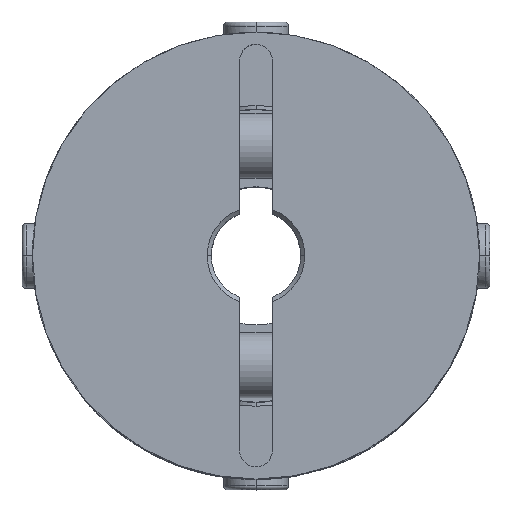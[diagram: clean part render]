
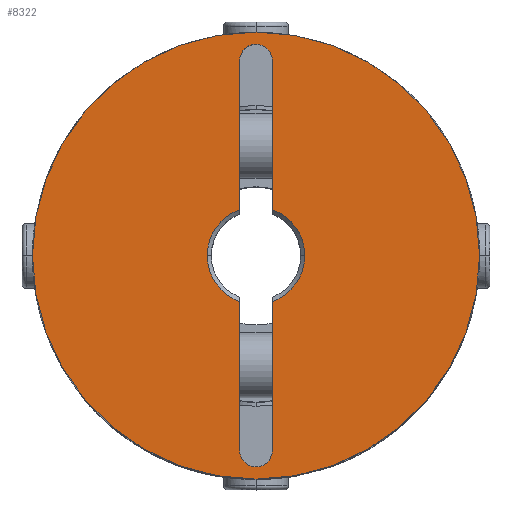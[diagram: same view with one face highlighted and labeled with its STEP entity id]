
A CAD part, top view. The second image highlights one B-rep face of the part: STEP entity #8322.
In plain terms, the highlighted planar face has unit normal (0, 0, 1).
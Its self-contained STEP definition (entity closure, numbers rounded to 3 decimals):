
#632=CARTESIAN_POINT('',(6.,0.,29.0));
#633=VERTEX_POINT('',#632);
#649=CARTESIAN_POINT('',(2.,-5.657,29.0));
#650=VERTEX_POINT('',#649);
#664=CARTESIAN_POINT('',(0.,0.0,29.0));
#665=DIRECTION('',(0.0,0.0,1.0));
#666=DIRECTION('',(-1.0,0.0,0.0));
#667=AXIS2_PLACEMENT_3D('',#664,#665,#666);
#668=CIRCLE('',#667,6.0);
#669=EDGE_CURVE('',#650,#633,#668,.T.);
#831=CARTESIAN_POINT('',(-6.,0.,29.0));
#832=VERTEX_POINT('',#831);
#839=CARTESIAN_POINT('',(-2.,-5.657,29.0));
#840=VERTEX_POINT('',#839);
#841=CARTESIAN_POINT('',(0.,0.0,29.0));
#842=DIRECTION('',(0.0,0.0,1.0));
#843=DIRECTION('',(-1.0,0.0,0.0));
#844=AXIS2_PLACEMENT_3D('',#841,#842,#843);
#845=CIRCLE('',#844,6.0);
#846=EDGE_CURVE('',#832,#840,#845,.T.);
#872=CARTESIAN_POINT('',(-1.414,25.414,29.0));
#873=VERTEX_POINT('',#872);
#889=CARTESIAN_POINT('',(2.,24.,29.0));
#890=VERTEX_POINT('',#889);
#897=CARTESIAN_POINT('',(0.,24.,29.0));
#898=DIRECTION('',(0.0,0.0,1.));
#899=DIRECTION('',(0.707,0.707,0.0));
#900=AXIS2_PLACEMENT_3D('',#897,#898,#899);
#901=CIRCLE('',#900,2.);
#902=EDGE_CURVE('',#890,#873,#901,.T.);
#914=CARTESIAN_POINT('',(1.414,-25.414,29.0));
#915=VERTEX_POINT('',#914);
#931=CARTESIAN_POINT('',(-2.,-24.,29.0));
#932=VERTEX_POINT('',#931);
#939=CARTESIAN_POINT('',(0.,-24.,29.0));
#940=DIRECTION('',(0.0,0.0,1.0));
#941=DIRECTION('',(-0.707,-0.707,0.0));
#942=AXIS2_PLACEMENT_3D('',#939,#940,#941);
#943=CIRCLE('',#942,2.0);
#944=EDGE_CURVE('',#932,#915,#943,.T.);
#1499=CARTESIAN_POINT('',(-27.5,0.,29.0));
#1500=VERTEX_POINT('',#1499);
#1507=CARTESIAN_POINT('',(27.5,0.0,29.0));
#1508=VERTEX_POINT('',#1507);
#1509=CARTESIAN_POINT('',(0.,0.0,29.0));
#1510=DIRECTION('',(0.0,0.0,-1.0));
#1511=DIRECTION('',(1.0,0.0,0.0));
#1512=AXIS2_PLACEMENT_3D('',#1509,#1510,#1511);
#1513=CIRCLE('',#1512,27.5);
#1514=EDGE_CURVE('',#1500,#1508,#1513,.T.);
#7523=CARTESIAN_POINT('',(0.,0.0,29.0));
#7524=DIRECTION('',(0.0,0.0,-1.0));
#7525=DIRECTION('',(1.0,0.0,0.0));
#7526=AXIS2_PLACEMENT_3D('',#7523,#7524,#7525);
#7527=CIRCLE('',#7526,27.5);
#7528=EDGE_CURVE('',#1508,#1500,#7527,.T.);
#8081=CARTESIAN_POINT('',(2.,-24.,29.0));
#8082=VERTEX_POINT('',#8081);
#8083=CARTESIAN_POINT('',(0.,-24.,29.0));
#8084=DIRECTION('',(0.0,0.0,1.0));
#8085=DIRECTION('',(-0.707,-0.707,0.0));
#8086=AXIS2_PLACEMENT_3D('',#8083,#8084,#8085);
#8087=CIRCLE('',#8086,2.0);
#8088=EDGE_CURVE('',#915,#8082,#8087,.T.);
#8106=CARTESIAN_POINT('',(2.,-5.657,29.0));
#8107=DIRECTION('',(0.0,-1.0,0.0));
#8108=VECTOR('',#8107,18.343);
#8109=LINE('',#8106,#8108);
#8110=EDGE_CURVE('',#650,#8082,#8109,.T.);
#8129=CARTESIAN_POINT('',(-2.,24.,29.0));
#8130=VERTEX_POINT('',#8129);
#8131=CARTESIAN_POINT('',(0.,24.,29.0));
#8132=DIRECTION('',(0.0,0.0,1.));
#8133=DIRECTION('',(0.707,0.707,0.0));
#8134=AXIS2_PLACEMENT_3D('',#8131,#8132,#8133);
#8135=CIRCLE('',#8134,2.);
#8136=EDGE_CURVE('',#873,#8130,#8135,.T.);
#8154=CARTESIAN_POINT('',(-2.,5.657,29.0));
#8155=VERTEX_POINT('',#8154);
#8156=CARTESIAN_POINT('',(-2.,5.657,29.0));
#8157=DIRECTION('',(0.0,1.0,0.0));
#8158=VECTOR('',#8157,18.343);
#8159=LINE('',#8156,#8158);
#8160=EDGE_CURVE('',#8155,#8130,#8159,.T.);
#8236=CARTESIAN_POINT('',(2.,5.657,29.0));
#8237=VERTEX_POINT('',#8236);
#8251=CARTESIAN_POINT('',(2.,24.,29.0));
#8252=DIRECTION('',(0.0,-1.0,0.0));
#8253=VECTOR('',#8252,18.343);
#8254=LINE('',#8251,#8253);
#8255=EDGE_CURVE('',#890,#8237,#8254,.T.);
#8274=CARTESIAN_POINT('',(-2.,-24.,29.0));
#8275=DIRECTION('',(0.0,1.0,0.0));
#8276=VECTOR('',#8275,18.343);
#8277=LINE('',#8274,#8276);
#8278=EDGE_CURVE('',#932,#840,#8277,.T.);
#8287=CARTESIAN_POINT('',(2.5,0.,29.0));
#8288=DIRECTION('',(0.0,0.0,1.0));
#8289=DIRECTION('',(1.0,0.0,0.0));
#8290=AXIS2_PLACEMENT_3D('',#8287,#8288,#8289);
#8291=PLANE('',#8290);
#8292=ORIENTED_EDGE('',*,*,#7528,.F.);
#8293=ORIENTED_EDGE('',*,*,#1514,.F.);
#8294=EDGE_LOOP('',(#8292,#8293));
#8295=FACE_OUTER_BOUND('',#8294,.T.);
#8296=ORIENTED_EDGE('',*,*,#8110,.T.);
#8297=ORIENTED_EDGE('',*,*,#8088,.F.);
#8298=ORIENTED_EDGE('',*,*,#944,.F.);
#8299=ORIENTED_EDGE('',*,*,#8278,.T.);
#8300=ORIENTED_EDGE('',*,*,#846,.F.);
#8301=CARTESIAN_POINT('',(0.,0.0,29.0));
#8302=DIRECTION('',(0.0,0.0,1.0));
#8303=DIRECTION('',(-1.0,0.0,0.0));
#8304=AXIS2_PLACEMENT_3D('',#8301,#8302,#8303);
#8305=CIRCLE('',#8304,6.0);
#8306=EDGE_CURVE('',#8155,#832,#8305,.T.);
#8307=ORIENTED_EDGE('',*,*,#8306,.F.);
#8308=ORIENTED_EDGE('',*,*,#8160,.T.);
#8309=ORIENTED_EDGE('',*,*,#8136,.F.);
#8310=ORIENTED_EDGE('',*,*,#902,.F.);
#8311=ORIENTED_EDGE('',*,*,#8255,.T.);
#8312=CARTESIAN_POINT('',(0.,0.0,29.0));
#8313=DIRECTION('',(0.0,0.0,1.0));
#8314=DIRECTION('',(-1.0,0.0,0.0));
#8315=AXIS2_PLACEMENT_3D('',#8312,#8313,#8314);
#8316=CIRCLE('',#8315,6.0);
#8317=EDGE_CURVE('',#633,#8237,#8316,.T.);
#8318=ORIENTED_EDGE('',*,*,#8317,.F.);
#8319=ORIENTED_EDGE('',*,*,#669,.F.);
#8320=EDGE_LOOP('',(#8296,#8297,#8298,#8299,#8300,#8307,#8308,#8309,#8310,#8311,#8318,#8319));
#8321=FACE_BOUND('',#8320,.T.);
#8322=ADVANCED_FACE('',(#8295,#8321),#8291,.T.);
